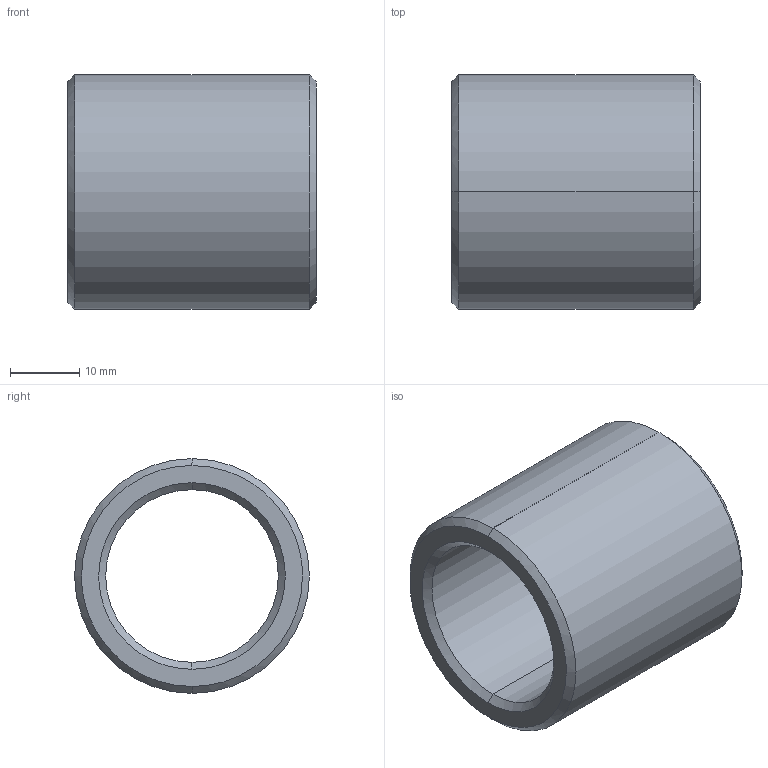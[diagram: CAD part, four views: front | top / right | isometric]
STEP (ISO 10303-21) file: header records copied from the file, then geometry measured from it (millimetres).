
FILE_DESCRIPTION(('CATIA V5 STEP Exchange'),'2;1');
FILE_NAME('C:\Users\Utente\Desktop\IO LAVORO\3D X SITO CF\X SITO\PLASTICA\352\352-25X36.stp','2021-04-15T06:12:15+00:00',('none'),('none'),'CATIA Version 5 Release 20 GA (IN-10)','CATIA V5 STEP AP203','none');
FILE_SCHEMA(('CONFIG_CONTROL_DESIGN'));
Length unit declared in the file: millimetre
Products named in the file (1): 352-25X36
Bounding box: 36 x 34 x 34 mm (x, y, z)
Volume: 14851.5 mm3; surface area: 7301.1 mm2
Topology: 1 solids, 1 shells, 14 faces, 44 edges, 32 vertices
Faces by surface type: cone 6, cylinder 4, plane 2, torus 2
Entity records: 634 total; most frequent: CARTESIAN_POINT 203, ORIENTED_EDGE 88, DIRECTION 64, EDGE_CURVE 44, AXIS2_PLACEMENT_3D 41, VERTEX_POINT 32, CIRCLE 26, EDGE_LOOP 16
